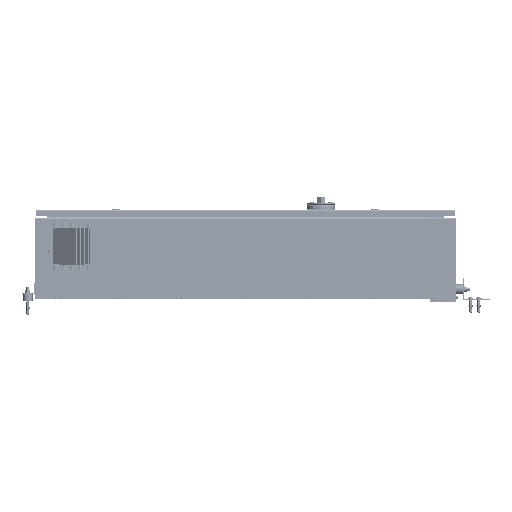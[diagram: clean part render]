
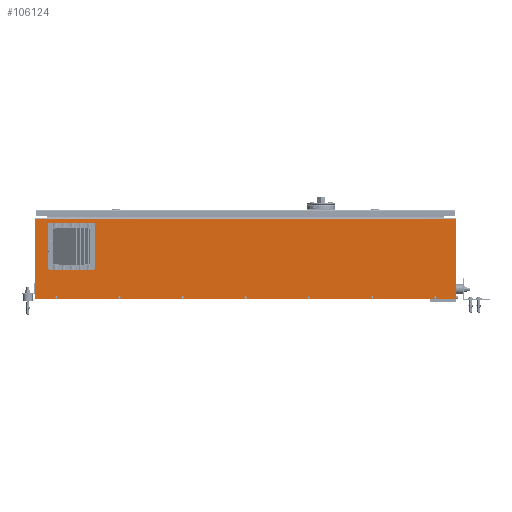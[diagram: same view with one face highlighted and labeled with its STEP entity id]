
A CAD part, left-side view. The second image highlights one B-rep face of the part: STEP entity #106124.
In plain terms, the highlighted planar face has unit normal (-1, 0, 0).
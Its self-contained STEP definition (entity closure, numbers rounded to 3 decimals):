
#2043 = DIRECTION ( 'NONE',  ( 0., 0., -1. ) ) ;
#7071 = EDGE_LOOP ( 'NONE', ( #764601 ) ) ;
#12334 = AXIS2_PLACEMENT_3D ( 'NONE', #813631, #879376, #517799 ) ;
#17171 = CARTESIAN_POINT ( 'NONE',  ( 1066.945, 884.241, 3227.412 ) ) ;
#19585 = CARTESIAN_POINT ( 'NONE',  ( 1066.945, 1337.741, 3475.662 ) ) ;
#45839 = FACE_BOUND ( 'NONE', #240126, .T. ) ;
#47996 = ORIENTED_EDGE ( 'NONE', *, *, #435198, .F. ) ;
#86386 = ORIENTED_EDGE ( 'NONE', *, *, #1071022, .T. ) ;
#87568 = DIRECTION ( 'NONE',  ( 0., 0., 1. ) ) ;
#94236 = EDGE_LOOP ( 'NONE', ( #441802 ) ) ;
#95432 = DIRECTION ( 'NONE',  ( 1., 0., 0. ) ) ;
#106124 = ADVANCED_FACE ( 'NONE', ( #858077, #117072, #318431, #211884, #1024512, #45839, #923752, #1012725, #128762 ), #751718, .F. ) ;
#109214 = VERTEX_POINT ( 'NONE', #381916 ) ;
#109708 = ORIENTED_EDGE ( 'NONE', *, *, #346115, .T. ) ;
#117072 = FACE_BOUND ( 'NONE', #429611, .T. ) ;
#119223 = DIRECTION ( 'NONE',  ( 0., 1., 0. ) ) ;
#128762 = FACE_OUTER_BOUND ( 'NONE', #1044438, .T. ) ;
#132874 = LINE ( 'NONE', #695979, #307998 ) ;
#132881 = DIRECTION ( 'NONE',  ( 0., 0., -1. ) ) ;
#172509 = DIRECTION ( 'NONE',  ( 1., 0., 0. ) ) ;
#173413 = CARTESIAN_POINT ( 'NONE',  ( 1066.945, 1289.241, 3450.662 ) ) ;
#195489 = CIRCLE ( 'NONE', #858506, 2.25 ) ;
#200072 = DIRECTION ( 'NONE',  ( 0., 0., 1. ) ) ;
#211884 = FACE_BOUND ( 'NONE', #411743, .T. ) ;
#226481 = CARTESIAN_POINT ( 'NONE',  ( 1066.945, 884.241, 3229.662 ) ) ;
#227665 = DIRECTION ( 'NONE',  ( 1., 0., 0. ) ) ;
#240126 = EDGE_LOOP ( 'NONE', ( #603925 ) ) ;
#241721 = AXIS2_PLACEMENT_3D ( 'NONE', #546112, #95432, #818727 ) ;
#250646 = ORIENTED_EDGE ( 'NONE', *, *, #613636, .T. ) ;
#269780 = CARTESIAN_POINT ( 'NONE',  ( 1066.945, 1164.241, 3450.662 ) ) ;
#272798 = ORIENTED_EDGE ( 'NONE', *, *, #1148983, .T. ) ;
#277378 = VERTEX_POINT ( 'NONE', #1158520 ) ;
#281480 = DIRECTION ( 'NONE',  ( 0., 0., -1. ) ) ;
#284248 = VECTOR ( 'NONE', #314438, 1000. ) ;
#292230 = VECTOR ( 'NONE', #119223, 1000. ) ;
#293536 = AXIS2_PLACEMENT_3D ( 'NONE', #429239, #227665, #601247 ) ;
#307998 = VECTOR ( 'NONE', #1141148, 1000. ) ;
#308837 = VERTEX_POINT ( 'NONE', #670503 ) ;
#314438 = DIRECTION ( 'NONE',  ( 0., 0., 1. ) ) ;
#316012 = VERTEX_POINT ( 'NONE', #410728 ) ;
#317178 = VERTEX_POINT ( 'NONE', #1157680 ) ;
#318431 = FACE_BOUND ( 'NONE', #408348, .T. ) ;
#341788 = VERTEX_POINT ( 'NONE', #1082696 ) ;
#346115 = EDGE_CURVE ( 'NONE', #918447, #918447, #195489, .T. ) ;
#354024 = EDGE_CURVE ( 'NONE', #806045, #806045, #1156206, .T. ) ;
#355259 = DIRECTION ( 'NONE',  ( 0., 1., 0. ) ) ;
#381916 = CARTESIAN_POINT ( 'NONE',  ( 1066.945, 299.241, 3231.912 ) ) ;
#383744 = CARTESIAN_POINT ( 'NONE',  ( 1066.945, 40.741, 3472.562 ) ) ;
#392689 = EDGE_LOOP ( 'NONE', ( #109708 ) ) ;
#399941 = LINE ( 'NONE', #922127, #1006381 ) ;
#408348 = EDGE_LOOP ( 'NONE', ( #1004707 ) ) ;
#410728 = CARTESIAN_POINT ( 'NONE',  ( 1066.945, 494.241, 3231.912 ) ) ;
#411743 = EDGE_LOOP ( 'NONE', ( #1106622, #608532, #86386, #250646 ) ) ;
#429239 = CARTESIAN_POINT ( 'NONE',  ( 1066.945, 494.241, 3229.662 ) ) ;
#429611 = EDGE_LOOP ( 'NONE', ( #964360 ) ) ;
#431412 = CARTESIAN_POINT ( 'NONE',  ( 1066.945, 1164.241, 3450.662 ) ) ;
#435198 = EDGE_CURVE ( 'NONE', #341788, #598562, #399941, .T. ) ;
#441802 = ORIENTED_EDGE ( 'NONE', *, *, #354024, .T. ) ;
#460997 = DIRECTION ( 'NONE',  ( 1., 0., 0. ) ) ;
#462989 = DIRECTION ( 'NONE',  ( 0., 0., 1. ) ) ;
#463451 = LINE ( 'NONE', #753832, #292230 ) ;
#517799 = DIRECTION ( 'NONE',  ( 0., 0., 1. ) ) ;
#520348 = EDGE_CURVE ( 'NONE', #341788, #838581, #593003, .T. ) ;
#521715 = VERTEX_POINT ( 'NONE', #431412 ) ;
#537185 = VERTEX_POINT ( 'NONE', #173413 ) ;
#546112 = CARTESIAN_POINT ( 'NONE',  ( 1066.945, 1079.241, 3229.662 ) ) ;
#572395 = AXIS2_PLACEMENT_3D ( 'NONE', #761589, #577890, #132881 ) ;
#576112 = EDGE_CURVE ( 'NONE', #610650, #598562, #725483, .T. ) ;
#577890 = DIRECTION ( 'NONE',  ( 1., 0., 0. ) ) ;
#593003 = LINE ( 'NONE', #842349, #284248 ) ;
#596606 = CIRCLE ( 'NONE', #293536, 2.25 ) ;
#598562 = VERTEX_POINT ( 'NONE', #1135179 ) ;
#601247 = DIRECTION ( 'NONE',  ( 0., 0., 1. ) ) ;
#603925 = ORIENTED_EDGE ( 'NONE', *, *, #1004896, .T. ) ;
#608532 = ORIENTED_EDGE ( 'NONE', *, *, #805345, .T. ) ;
#609228 = VERTEX_POINT ( 'NONE', #686598 ) ;
#610391 = CIRCLE ( 'NONE', #572395, 2.25 ) ;
#610650 = VERTEX_POINT ( 'NONE', #813828 ) ;
#613636 = EDGE_CURVE ( 'NONE', #521715, #277378, #637336, .T. ) ;
#613725 = CIRCLE ( 'NONE', #633045, 2.25 ) ;
#616463 = LINE ( 'NONE', #722991, #776473 ) ;
#633045 = AXIS2_PLACEMENT_3D ( 'NONE', #716229, #460997, #87568 ) ;
#633519 = VECTOR ( 'NONE', #2043, 1000. ) ;
#637336 = LINE ( 'NONE', #269780, #801985 ) ;
#644377 = AXIS2_PLACEMENT_3D ( 'NONE', #226481, #938473, #916516 ) ;
#649750 = AXIS2_PLACEMENT_3D ( 'NONE', #1131138, #1030416, #200072 ) ;
#660647 = CARTESIAN_POINT ( 'NONE',  ( 1066.945, 1289.241, 3450.662 ) ) ;
#670503 = CARTESIAN_POINT ( 'NONE',  ( 1066.945, 1079.241, 3227.412 ) ) ;
#672793 = DIRECTION ( 'NONE',  ( 0., 1., 0. ) ) ;
#678658 = EDGE_CURVE ( 'NONE', #109214, #109214, #613725, .T. ) ;
#686598 = CARTESIAN_POINT ( 'NONE',  ( 1066.945, 689.241, 3231.912 ) ) ;
#692399 = CARTESIAN_POINT ( 'NONE',  ( 1066.945, 1274.241, 3227.412 ) ) ;
#695979 = CARTESIAN_POINT ( 'NONE',  ( 1066.945, 1164.241, 3450.662 ) ) ;
#705243 = EDGE_CURVE ( 'NONE', #277378, #317178, #463451, .T. ) ;
#716229 = CARTESIAN_POINT ( 'NONE',  ( 1066.945, 299.241, 3229.662 ) ) ;
#722991 = CARTESIAN_POINT ( 'NONE',  ( 1066.945, 39.241, 3472.562 ) ) ;
#725483 = LINE ( 'NONE', #19585, #633519 ) ;
#731817 = CIRCLE ( 'NONE', #12334, 2.25 ) ;
#743856 = LINE ( 'NONE', #660647, #776176 ) ;
#751718 = PLANE ( 'NONE',  #649750 ) ;
#753832 = CARTESIAN_POINT ( 'NONE',  ( 1066.945, 1164.241, 3325.662 ) ) ;
#761589 = CARTESIAN_POINT ( 'NONE',  ( 1066.945, 1274.241, 3229.662 ) ) ;
#764601 = ORIENTED_EDGE ( 'NONE', *, *, #678658, .T. ) ;
#776176 = VECTOR ( 'NONE', #1040090, 1000. ) ;
#776473 = VECTOR ( 'NONE', #355259, 1000. ) ;
#801985 = VECTOR ( 'NONE', #281480, 1000. ) ;
#805345 = EDGE_CURVE ( 'NONE', #317178, #537185, #743856, .T. ) ;
#806045 = VERTEX_POINT ( 'NONE', #17171 ) ;
#806721 = ORIENTED_EDGE ( 'NONE', *, *, #1158366, .T. ) ;
#813631 = CARTESIAN_POINT ( 'NONE',  ( 1066.945, 689.241, 3229.662 ) ) ;
#813828 = CARTESIAN_POINT ( 'NONE',  ( 1066.945, 1337.741, 3472.562 ) ) ;
#818727 = DIRECTION ( 'NONE',  ( 0., 0., -1. ) ) ;
#838581 = VERTEX_POINT ( 'NONE', #383744 ) ;
#842349 = CARTESIAN_POINT ( 'NONE',  ( 1066.945, 40.741, 3475.662 ) ) ;
#858077 = FACE_BOUND ( 'NONE', #94236, .T. ) ;
#858506 = AXIS2_PLACEMENT_3D ( 'NONE', #1002633, #172509, #462989 ) ;
#864401 = VERTEX_POINT ( 'NONE', #692399 ) ;
#866561 = CIRCLE ( 'NONE', #241721, 2.25 ) ;
#879376 = DIRECTION ( 'NONE',  ( 1., 0., 0. ) ) ;
#916516 = DIRECTION ( 'NONE',  ( 0., 0., -1. ) ) ;
#918447 = VERTEX_POINT ( 'NONE', #1096683 ) ;
#922127 = CARTESIAN_POINT ( 'NONE',  ( 1066.945, 39.241, 3225.662 ) ) ;
#923752 = FACE_BOUND ( 'NONE', #7071, .T. ) ;
#933535 = EDGE_LOOP ( 'NONE', ( #272798 ) ) ;
#938473 = DIRECTION ( 'NONE',  ( 1., 0., 0. ) ) ;
#964360 = ORIENTED_EDGE ( 'NONE', *, *, #1073180, .T. ) ;
#1001358 = ORIENTED_EDGE ( 'NONE', *, *, #576112, .T. ) ;
#1002633 = CARTESIAN_POINT ( 'NONE',  ( 1066.945, 104.241, 3229.662 ) ) ;
#1004707 = ORIENTED_EDGE ( 'NONE', *, *, #1153982, .T. ) ;
#1004896 = EDGE_CURVE ( 'NONE', #316012, #316012, #596606, .T. ) ;
#1006381 = VECTOR ( 'NONE', #672793, 1000. ) ;
#1012725 = FACE_BOUND ( 'NONE', #392689, .T. ) ;
#1024512 = FACE_BOUND ( 'NONE', #933535, .T. ) ;
#1030416 = DIRECTION ( 'NONE',  ( 1., 0., 0. ) ) ;
#1040090 = DIRECTION ( 'NONE',  ( 0., 0., 1. ) ) ;
#1044438 = EDGE_LOOP ( 'NONE', ( #1100786, #806721, #1001358, #47996 ) ) ;
#1071022 = EDGE_CURVE ( 'NONE', #537185, #521715, #132874, .T. ) ;
#1073180 = EDGE_CURVE ( 'NONE', #308837, #308837, #866561, .T. ) ;
#1082696 = CARTESIAN_POINT ( 'NONE',  ( 1066.945, 40.741, 3225.662 ) ) ;
#1096683 = CARTESIAN_POINT ( 'NONE',  ( 1066.945, 104.241, 3231.912 ) ) ;
#1100786 = ORIENTED_EDGE ( 'NONE', *, *, #520348, .T. ) ;
#1106622 = ORIENTED_EDGE ( 'NONE', *, *, #705243, .T. ) ;
#1131138 = CARTESIAN_POINT ( 'NONE',  ( 1066.945, 1339.241, 3475.662 ) ) ;
#1135179 = CARTESIAN_POINT ( 'NONE',  ( 1066.945, 1337.741, 3225.662 ) ) ;
#1141148 = DIRECTION ( 'NONE',  ( 0., -1., 0. ) ) ;
#1148983 = EDGE_CURVE ( 'NONE', #609228, #609228, #731817, .T. ) ;
#1153982 = EDGE_CURVE ( 'NONE', #864401, #864401, #610391, .T. ) ;
#1156206 = CIRCLE ( 'NONE', #644377, 2.25 ) ;
#1157680 = CARTESIAN_POINT ( 'NONE',  ( 1066.945, 1289.241, 3325.662 ) ) ;
#1158366 = EDGE_CURVE ( 'NONE', #838581, #610650, #616463, .T. ) ;
#1158520 = CARTESIAN_POINT ( 'NONE',  ( 1066.945, 1164.241, 3325.662 ) ) ;
